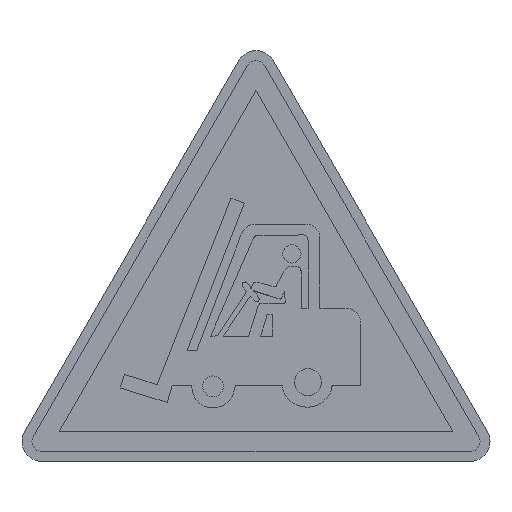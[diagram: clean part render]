
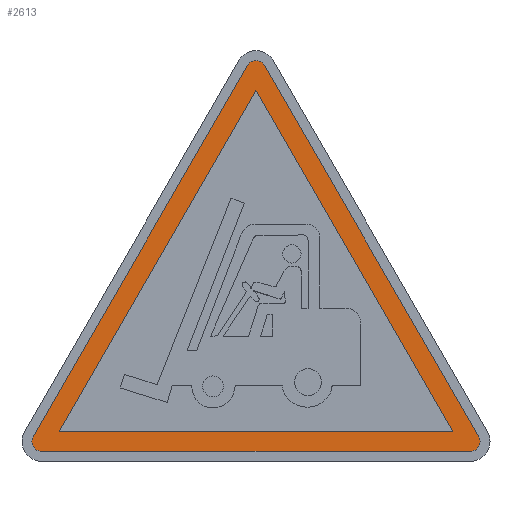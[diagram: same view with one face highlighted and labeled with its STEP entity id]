
A CAD part, top view. The second image highlights one B-rep face of the part: STEP entity #2613.
In plain terms, the highlighted planar face has unit normal (0, 0, 1).
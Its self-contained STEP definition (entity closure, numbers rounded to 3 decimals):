
#18 = DIRECTION ( 'NONE',  ( 1., 0., 0. ) ) ;
#62 = CIRCLE ( 'NONE', #2103, 1. ) ;
#112 = DIRECTION ( 'NONE',  ( 1., 0., 0. ) ) ;
#214 = DIRECTION ( 'NONE',  ( 0., 0., 1. ) ) ;
#239 = CARTESIAN_POINT ( 'NONE',  ( 0.866, 39.801, 0.22 ) ) ;
#346 = VECTOR ( 'NONE', #1119, 1000. ) ;
#377 = DIRECTION ( 'NONE',  ( 0., 0., 1. ) ) ;
#437 = ORIENTED_EDGE ( 'NONE', *, *, #1848, .T. ) ;
#501 = DIRECTION ( 'NONE',  ( -0.5, -0.866, 0. ) ) ;
#515 = EDGE_CURVE ( 'NONE', #3365, #3043, #736, .T. ) ;
#539 = EDGE_CURVE ( 'NONE', #2404, #3365, #588, .T. ) ;
#556 = CARTESIAN_POINT ( 'NONE',  ( 21.536, 1., 0.22 ) ) ;
#575 = LINE ( 'NONE', #1685, #346 ) ;
#588 = CIRCLE ( 'NONE', #649, 1. ) ;
#590 = VERTEX_POINT ( 'NONE', #865 ) ;
#619 = VERTEX_POINT ( 'NONE', #936 ) ;
#649 = AXIS2_PLACEMENT_3D ( 'NONE', #1400, #2779, #18 ) ;
#698 = EDGE_CURVE ( 'NONE', #2546, #1599, #3553, .T. ) ;
#736 = LINE ( 'NONE', #3481, #3287 ) ;
#748 = CARTESIAN_POINT ( 'NONE',  ( 0., 39.301, 0.22 ) ) ;
#761 = VECTOR ( 'NONE', #3252, 1000. ) ;
#838 = VECTOR ( 'NONE', #501, 1000. ) ;
#865 = CARTESIAN_POINT ( 'NONE',  ( -0.866, 39.801, 0.22 ) ) ;
#928 = DIRECTION ( 'NONE',  ( 1., 0., 0. ) ) ;
#936 = CARTESIAN_POINT ( 'NONE',  ( -22.402, 2.5, 0.22 ) ) ;
#992 = DIRECTION ( 'NONE',  ( 1., 0., 0. ) ) ;
#1036 = ORIENTED_EDGE ( 'NONE', *, *, #2131, .T. ) ;
#1040 = FACE_BOUND ( 'NONE', #3211, .T. ) ;
#1061 = VERTEX_POINT ( 'NONE', #2849 ) ;
#1119 = DIRECTION ( 'NONE',  ( -0.5, 0.866, 0. ) ) ;
#1321 = EDGE_CURVE ( 'NONE', #1384, #2546, #575, .T. ) ;
#1345 = DIRECTION ( 'NONE',  ( 1., 0., 0. ) ) ;
#1384 = VERTEX_POINT ( 'NONE', #3178 ) ;
#1400 = CARTESIAN_POINT ( 'NONE',  ( 21.536, 2., 0.22 ) ) ;
#1424 = CARTESIAN_POINT ( 'NONE',  ( 22.402, 2.5, 0.22 ) ) ;
#1439 = EDGE_CURVE ( 'NONE', #590, #619, #1904, .T. ) ;
#1471 = EDGE_CURVE ( 'NONE', #1599, #1384, #3237, .T. ) ;
#1517 = CARTESIAN_POINT ( 'NONE',  ( -21.536, 2., 0.22 ) ) ;
#1556 = LINE ( 'NONE', #1818, #2340 ) ;
#1595 = CIRCLE ( 'NONE', #2740, 1. ) ;
#1599 = VERTEX_POINT ( 'NONE', #2582 ) ;
#1656 = EDGE_CURVE ( 'NONE', #619, #2974, #2792, .T. ) ;
#1668 = ORIENTED_EDGE ( 'NONE', *, *, #698, .F. ) ;
#1685 = CARTESIAN_POINT ( 'NONE',  ( 19.804, 3., 0.22 ) ) ;
#1720 = EDGE_LOOP ( 'NONE', ( #437, #3308, #3190, #1036, #2308, #3163, #2564 ) ) ;
#1818 = CARTESIAN_POINT ( 'NONE',  ( -21.536, 1., 0.22 ) ) ;
#1835 = CARTESIAN_POINT ( 'NONE',  ( -19.804, 3., 0.22 ) ) ;
#1848 = EDGE_CURVE ( 'NONE', #3043, #590, #62, .T. ) ;
#1901 = CARTESIAN_POINT ( 'NONE',  ( 0., 37.301, 0.22 ) ) ;
#1904 = LINE ( 'NONE', #2420, #761 ) ;
#1966 = ORIENTED_EDGE ( 'NONE', *, *, #1471, .F. ) ;
#1987 = VECTOR ( 'NONE', #992, 1000. ) ;
#2026 = EDGE_CURVE ( 'NONE', #1061, #2404, #1556, .T. ) ;
#2036 = DIRECTION ( 'NONE',  ( 1., 0., 0. ) ) ;
#2103 = AXIS2_PLACEMENT_3D ( 'NONE', #3488, #377, #3230 ) ;
#2131 = EDGE_CURVE ( 'NONE', #2974, #1061, #1595, .T. ) ;
#2308 = ORIENTED_EDGE ( 'NONE', *, *, #2026, .T. ) ;
#2340 = VECTOR ( 'NONE', #2036, 1000. ) ;
#2404 = VERTEX_POINT ( 'NONE', #556 ) ;
#2420 = CARTESIAN_POINT ( 'NONE',  ( -0.866, 39.801, 0.22 ) ) ;
#2421 = FACE_OUTER_BOUND ( 'NONE', #1720, .T. ) ;
#2521 = CARTESIAN_POINT ( 'NONE',  ( -21.536, 2., 0.22 ) ) ;
#2546 = VERTEX_POINT ( 'NONE', #2655 ) ;
#2564 = ORIENTED_EDGE ( 'NONE', *, *, #515, .T. ) ;
#2582 = CARTESIAN_POINT ( 'NONE',  ( -19.804, 3., 0.22 ) ) ;
#2607 = DIRECTION ( 'NONE',  ( 0., 0., 1. ) ) ;
#2613 = ADVANCED_FACE ( 'NONE', ( #2421, #1040 ), #3253, .T. ) ;
#2655 = CARTESIAN_POINT ( 'NONE',  ( 0., 37.301, 0.22 ) ) ;
#2740 = AXIS2_PLACEMENT_3D ( 'NONE', #1517, #2607, #112 ) ;
#2761 = ORIENTED_EDGE ( 'NONE', *, *, #1321, .F. ) ;
#2779 = DIRECTION ( 'NONE',  ( 0., 0., 1. ) ) ;
#2792 = CIRCLE ( 'NONE', #3394, 1. ) ;
#2849 = CARTESIAN_POINT ( 'NONE',  ( -21.536, 1., 0.22 ) ) ;
#2921 = DIRECTION ( 'NONE',  ( -0.5, 0.866, 0. ) ) ;
#2927 = CARTESIAN_POINT ( 'NONE',  ( -22.536, 2., 0.22 ) ) ;
#2974 = VERTEX_POINT ( 'NONE', #2927 ) ;
#3043 = VERTEX_POINT ( 'NONE', #239 ) ;
#3163 = ORIENTED_EDGE ( 'NONE', *, *, #539, .T. ) ;
#3178 = CARTESIAN_POINT ( 'NONE',  ( 19.804, 3., 0.22 ) ) ;
#3190 = ORIENTED_EDGE ( 'NONE', *, *, #1656, .T. ) ;
#3211 = EDGE_LOOP ( 'NONE', ( #1966, #1668, #2761 ) ) ;
#3230 = DIRECTION ( 'NONE',  ( 1., 0., 0. ) ) ;
#3237 = LINE ( 'NONE', #1835, #1987 ) ;
#3252 = DIRECTION ( 'NONE',  ( -0.5, -0.866, 0. ) ) ;
#3253 = PLANE ( 'NONE',  #3453 ) ;
#3287 = VECTOR ( 'NONE', #2921, 1000. ) ;
#3308 = ORIENTED_EDGE ( 'NONE', *, *, #1439, .T. ) ;
#3365 = VERTEX_POINT ( 'NONE', #1424 ) ;
#3394 = AXIS2_PLACEMENT_3D ( 'NONE', #2521, #3415, #928 ) ;
#3415 = DIRECTION ( 'NONE',  ( 0., 0., 1. ) ) ;
#3453 = AXIS2_PLACEMENT_3D ( 'NONE', #748, #214, #1345 ) ;
#3481 = CARTESIAN_POINT ( 'NONE',  ( 22.402, 2.5, 0.22 ) ) ;
#3488 = CARTESIAN_POINT ( 'NONE',  ( 0., 39.301, 0.22 ) ) ;
#3553 = LINE ( 'NONE', #1901, #838 ) ;
